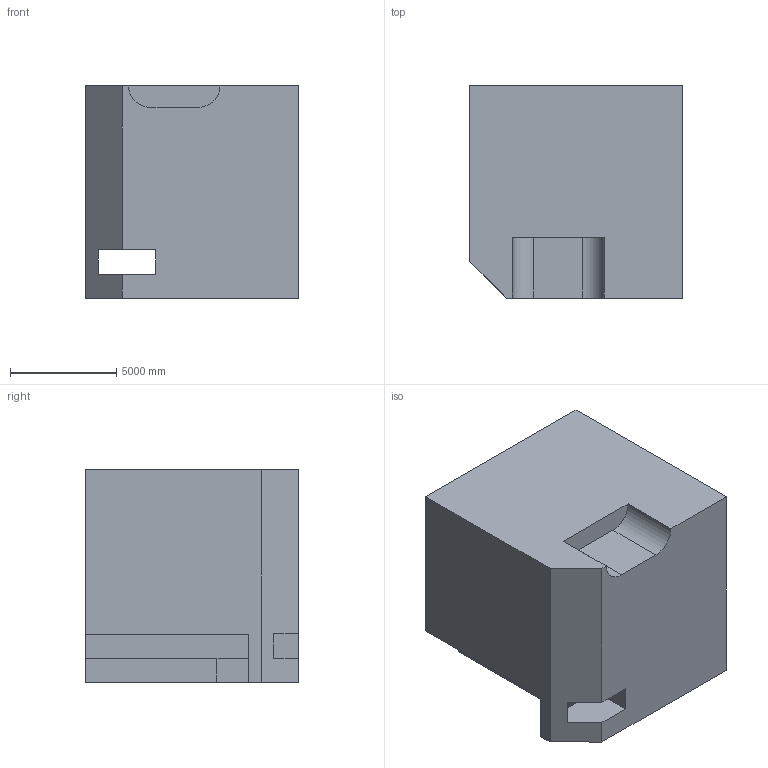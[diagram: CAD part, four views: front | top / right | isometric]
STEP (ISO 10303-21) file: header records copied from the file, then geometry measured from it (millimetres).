
FILE_DESCRIPTION (( 'STEP AP203' ), '1' );
FILE_NAME ('527.STEP', '2022-07-29T11:39:47', ( 'user' ), ( '' ), 'SwSTEP 2.0', 'SolidWorks 2021', '' );
FILE_SCHEMA (( 'CONFIG_CONTROL_DESIGN' ));
Length unit declared in the file: centimetre
Products named in the file (1): 527
Bounding box: 10000 x 10000 x 10000 mm (x, y, z)
Volume: 885102301648.5 mm3; surface area: 672933406.9 mm2
Topology: 1 solids, 1 shells, 33 faces, 96 edges, 64 vertices
Faces by surface type: plane 31, cylinder 2
Entity records: 1155 total; most frequent: CARTESIAN_POINT 194, ORIENTED_EDGE 192, DIRECTION 168, EDGE_CURVE 96, LINE 92, VECTOR 92, VERTEX_POINT 64, AXIS2_PLACEMENT_3D 38
